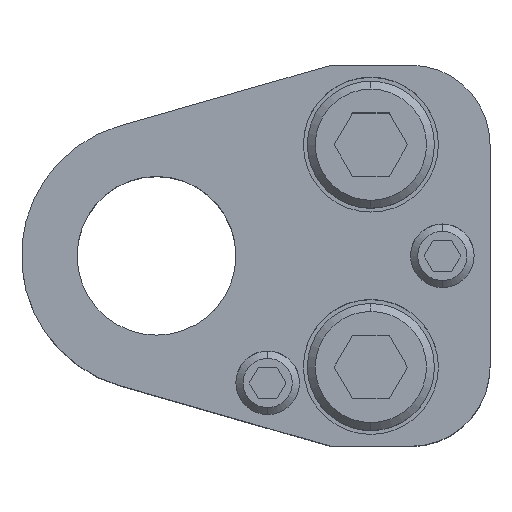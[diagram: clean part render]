
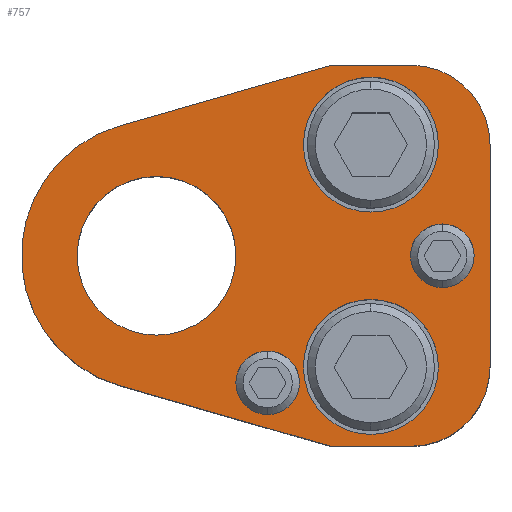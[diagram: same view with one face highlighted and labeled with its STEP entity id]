
A CAD part, top view. The second image highlights one B-rep face of the part: STEP entity #757.
In plain terms, the highlighted planar face has unit normal (0, 0, 1).
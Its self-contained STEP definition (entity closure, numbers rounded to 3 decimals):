
#428=LINE('',#3648,#598);
#433=LINE('',#3663,#603);
#437=LINE('',#3675,#607);
#442=LINE('',#3684,#612);
#447=LINE('',#3698,#617);
#598=VECTOR('',#2943,1.);
#603=VECTOR('',#2956,1.);
#607=VECTOR('',#2968,1.);
#612=VECTOR('',#2975,1.);
#617=VECTOR('',#2988,1.);
#757=ADVANCED_FACE('',(#863,#864,#865,#866,#867,#868),#834,.T.);
#834=PLANE('',#2455);
#863=FACE_BOUND('',#1003,.T.);
#864=FACE_BOUND('',#1004,.T.);
#865=FACE_BOUND('',#1005,.T.);
#866=FACE_BOUND('',#1006,.T.);
#867=FACE_BOUND('',#1007,.T.);
#868=FACE_BOUND('',#1008,.T.);
#1003=EDGE_LOOP('',(#1518,#1519,#1520,#1521,#1522,#1523,#1524,#1525));
#1004=EDGE_LOOP('',(#1526,#1527));
#1005=EDGE_LOOP('',(#1528,#1529));
#1006=EDGE_LOOP('',(#1530,#1531));
#1007=EDGE_LOOP('',(#1532,#1533));
#1008=EDGE_LOOP('',(#1534,#1535));
#1518=ORIENTED_EDGE('',*,*,#2038,.T.);
#1519=ORIENTED_EDGE('',*,*,#2020,.T.);
#1520=ORIENTED_EDGE('',*,*,#2024,.T.);
#1521=ORIENTED_EDGE('',*,*,#2027,.T.);
#1522=ORIENTED_EDGE('',*,*,#2030,.T.);
#1523=ORIENTED_EDGE('',*,*,#2033,.T.);
#1524=ORIENTED_EDGE('',*,*,#2045,.T.);
#1525=ORIENTED_EDGE('',*,*,#2041,.T.);
#1526=ORIENTED_EDGE('',*,*,#2080,.F.);
#1527=ORIENTED_EDGE('',*,*,#2081,.F.);
#1528=ORIENTED_EDGE('',*,*,#2082,.F.);
#1529=ORIENTED_EDGE('',*,*,#2083,.F.);
#1530=ORIENTED_EDGE('',*,*,#2070,.F.);
#1531=ORIENTED_EDGE('',*,*,#2066,.F.);
#1532=ORIENTED_EDGE('',*,*,#2064,.F.);
#1533=ORIENTED_EDGE('',*,*,#2060,.F.);
#1534=ORIENTED_EDGE('',*,*,#2084,.T.);
#1535=ORIENTED_EDGE('',*,*,#2085,.T.);
#1757=VERTEX_POINT('',#3647);
#1758=VERTEX_POINT('',#3649);
#1761=VERTEX_POINT('',#3656);
#1763=VERTEX_POINT('',#3662);
#1765=VERTEX_POINT('',#3668);
#1767=VERTEX_POINT('',#3674);
#1771=VERTEX_POINT('',#3685);
#1773=VERTEX_POINT('',#3691);
#1787=VERTEX_POINT('',#3733);
#1788=VERTEX_POINT('',#3734);
#1791=VERTEX_POINT('',#3745);
#1792=VERTEX_POINT('',#3746);
#1799=VERTEX_POINT('',#3773);
#1800=VERTEX_POINT('',#3774);
#1801=VERTEX_POINT('',#3777);
#1802=VERTEX_POINT('',#3778);
#1803=VERTEX_POINT('',#3781);
#1804=VERTEX_POINT('',#3782);
#2020=EDGE_CURVE('',#1758,#1757,#428,.T.);
#2024=EDGE_CURVE('',#1757,#1761,#2191,.T.);
#2027=EDGE_CURVE('',#1761,#1763,#433,.T.);
#2030=EDGE_CURVE('',#1763,#1765,#2193,.T.);
#2033=EDGE_CURVE('',#1765,#1767,#437,.T.);
#2038=EDGE_CURVE('',#1771,#1758,#442,.T.);
#2041=EDGE_CURVE('',#1773,#1771,#2196,.T.);
#2045=EDGE_CURVE('',#1767,#1773,#447,.T.);
#2060=EDGE_CURVE('',#1787,#1788,#2205,.T.);
#2064=EDGE_CURVE('',#1788,#1787,#2207,.T.);
#2066=EDGE_CURVE('',#1791,#1792,#2209,.T.);
#2070=EDGE_CURVE('',#1792,#1791,#2211,.T.);
#2080=EDGE_CURVE('',#1799,#1800,#2217,.T.);
#2081=EDGE_CURVE('',#1800,#1799,#2218,.T.);
#2082=EDGE_CURVE('',#1801,#1802,#2219,.T.);
#2083=EDGE_CURVE('',#1802,#1801,#2220,.T.);
#2084=EDGE_CURVE('',#1803,#1804,#2221,.T.);
#2085=EDGE_CURVE('',#1804,#1803,#2222,.T.);
#2191=CIRCLE('',#2406,10.);
#2193=CIRCLE('',#2410,10.);
#2196=CIRCLE('',#2416,17.);
#2205=CIRCLE('',#2429,4.);
#2207=CIRCLE('',#2432,4.);
#2209=CIRCLE('',#2435,4.);
#2211=CIRCLE('',#2438,4.);
#2217=CIRCLE('',#2449,8.5);
#2218=CIRCLE('',#2450,8.5);
#2219=CIRCLE('',#2451,8.5);
#2220=CIRCLE('',#2452,8.5);
#2221=CIRCLE('',#2453,10.);
#2222=CIRCLE('',#2454,10.);
#2406=AXIS2_PLACEMENT_3D('',#3657,#2949,#2950);
#2410=AXIS2_PLACEMENT_3D('',#3669,#2961,#2962);
#2416=AXIS2_PLACEMENT_3D('',#3690,#2981,#2982);
#2429=AXIS2_PLACEMENT_3D('',#3732,#3016,#3017);
#2432=AXIS2_PLACEMENT_3D('',#3741,#3024,#3025);
#2435=AXIS2_PLACEMENT_3D('',#3744,#3030,#3031);
#2438=AXIS2_PLACEMENT_3D('',#3753,#3038,#3039);
#2449=AXIS2_PLACEMENT_3D('',#3772,#3064,#3065);
#2450=AXIS2_PLACEMENT_3D('',#3775,#3066,#3067);
#2451=AXIS2_PLACEMENT_3D('',#3776,#3068,#3069);
#2452=AXIS2_PLACEMENT_3D('',#3779,#3070,#3071);
#2453=AXIS2_PLACEMENT_3D('',#3780,#3072,#3073);
#2454=AXIS2_PLACEMENT_3D('',#3783,#3074,#3075);
#2455=AXIS2_PLACEMENT_3D('',#3784,#3076,#3077);
#2943=DIRECTION('',(1.,0.,0.));
#2949=DIRECTION('',(0.,0.,1.));
#2950=DIRECTION('',(-0.707,0.707,0.));
#2956=DIRECTION('',(0.,1.,0.));
#2961=DIRECTION('',(0.,0.,1.));
#2962=DIRECTION('',(-0.707,-0.707,0.));
#2968=DIRECTION('',(-1.,0.,0.));
#2975=DIRECTION('',(0.961,-0.276,0.));
#2981=DIRECTION('',(0.,0.,1.));
#2982=DIRECTION('',(1.,0.,0.));
#2988=DIRECTION('',(-0.961,-0.276,0.));
#3016=DIRECTION('',(0.,0.,1.));
#3017=DIRECTION('',(-1.,0.,0.));
#3024=DIRECTION('',(0.,0.,1.));
#3025=DIRECTION('',(1.,0.,0.));
#3030=DIRECTION('',(0.,0.,1.));
#3031=DIRECTION('',(-1.,0.,0.));
#3038=DIRECTION('',(0.,0.,1.));
#3039=DIRECTION('',(1.,0.,0.));
#3064=DIRECTION('',(0.,0.,1.));
#3065=DIRECTION('',(1.,0.,0.));
#3066=DIRECTION('',(0.,0.,1.));
#3067=DIRECTION('',(-1.,0.,0.));
#3068=DIRECTION('',(0.,0.,1.));
#3069=DIRECTION('',(1.,0.,0.));
#3070=DIRECTION('',(0.,0.,1.));
#3071=DIRECTION('',(-1.,0.,0.));
#3072=DIRECTION('',(0.,0.,-1.));
#3073=DIRECTION('',(-1.,0.,0.));
#3074=DIRECTION('',(0.,0.,-1.));
#3075=DIRECTION('',(1.,0.,0.));
#3076=DIRECTION('',(0.,0.,1.));
#3077=DIRECTION('',(0.961,-0.276,0.));
#3647=CARTESIAN_POINT('',(32.,-24.,35.));
#3648=CARTESIAN_POINT('',(22.,-24.,35.));
#3649=CARTESIAN_POINT('',(22.,-24.,35.));
#3656=CARTESIAN_POINT('',(42.,-14.,35.));
#3657=CARTESIAN_POINT('',(32.,-14.,35.));
#3662=CARTESIAN_POINT('',(42.,14.,35.));
#3663=CARTESIAN_POINT('',(42.,14.,35.));
#3668=CARTESIAN_POINT('',(32.,24.,35.));
#3669=CARTESIAN_POINT('',(32.,14.,35.));
#3674=CARTESIAN_POINT('',(22.,24.,35.));
#3675=CARTESIAN_POINT('',(22.,24.,35.));
#3684=CARTESIAN_POINT('',(22.,-24.,35.));
#3685=CARTESIAN_POINT('',(-4.69,-16.34,35.));
#3690=CARTESIAN_POINT('',(0.,0.,35.));
#3691=CARTESIAN_POINT('',(-4.69,16.34,35.));
#3698=CARTESIAN_POINT('',(22.,24.,35.));
#3732=CARTESIAN_POINT('',(14.,-16.,35.));
#3733=CARTESIAN_POINT('',(14.,-20.,35.));
#3734=CARTESIAN_POINT('',(14.,-12.,35.));
#3741=CARTESIAN_POINT('',(14.,-16.,35.));
#3744=CARTESIAN_POINT('',(36.,0.,35.));
#3745=CARTESIAN_POINT('',(36.,-4.,35.));
#3746=CARTESIAN_POINT('',(36.,4.,35.));
#3753=CARTESIAN_POINT('',(36.,0.,35.));
#3772=CARTESIAN_POINT('',(27.,14.,35.));
#3773=CARTESIAN_POINT('',(27.,22.5,35.));
#3774=CARTESIAN_POINT('',(27.,5.5,35.));
#3775=CARTESIAN_POINT('',(27.,14.,35.));
#3776=CARTESIAN_POINT('',(27.,-14.,35.));
#3777=CARTESIAN_POINT('',(27.,-5.5,35.));
#3778=CARTESIAN_POINT('',(27.,-22.5,35.));
#3779=CARTESIAN_POINT('',(27.,-14.,35.));
#3780=CARTESIAN_POINT('',(0.,0.,35.));
#3781=CARTESIAN_POINT('',(0.,10.,35.));
#3782=CARTESIAN_POINT('',(0.,-10.,35.));
#3783=CARTESIAN_POINT('',(0.,0.,35.));
#3784=CARTESIAN_POINT('',(-4.69,-16.34,35.));
